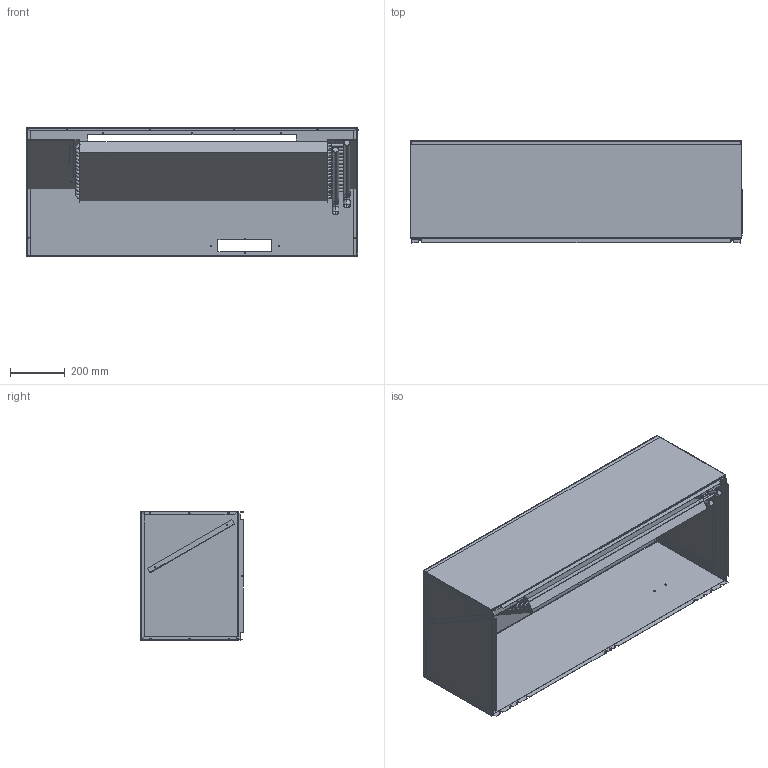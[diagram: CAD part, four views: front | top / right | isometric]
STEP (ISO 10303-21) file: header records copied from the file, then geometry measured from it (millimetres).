
FILE_DESCRIPTION (( 'STEP AP214' ), '1' );
FILE_NAME ('QPBHW48-D-X-MOD.STEP', '2016-07-14T18:29:52', ( 'BMC' ), ( 'Bard Manufacturing Co., Inc.' ), 'SwSTEP 2.0', 'SolidWorks 2016', '' );
FILE_SCHEMA (( 'AUTOMOTIVE_DESIGN' ));
Length unit declared in the file: inch
Products named in the file (17): 137X435; QPBHW48-D-X-MOD; 806-0605; 850-0002; 104-1065; 137Y435; 114-134 A; 814-0284; 6011-012,; 916-0129; 108-163; 174-075 for 5060-110; 100-389 A; 104-1094 A; 142-074; 100-390 A; 5060-110
Assembly tree (43 placements, depth 4):
  QPBHW48-D-X-MOD
    108-163
    100-389 A
    100-390 A
    5060-110
      174-075 for 5060-110
      137Y435
      137X435
      806-0605  x14
      916-0129  x2
        814-0284
        6011-012,
        850-0002
    104-1065
    142-074
    114-134 A
    104-1094 A
Bounding box: 1212.85 x 374.76 x 474.72 mm (x, y, z)
Surface area: 7137962.9 mm2 (no closed solid volume)
Topology: 0 solids, 56 shells, 1833 faces, 4465 edges, 2858 vertices
Faces by surface type: cylinder 943, bspline 454, plane 412, cone 16, torus 8
Entity records: 28163 total; most frequent: CARTESIAN_POINT 6729, DIRECTION 4529, ORIENTED_EDGE 4186, EDGE_CURVE 2093, AXIS2_PLACEMENT_3D 1744, VERTEX_POINT 1384, EDGE_LOOP 1117, VECTOR 1041
